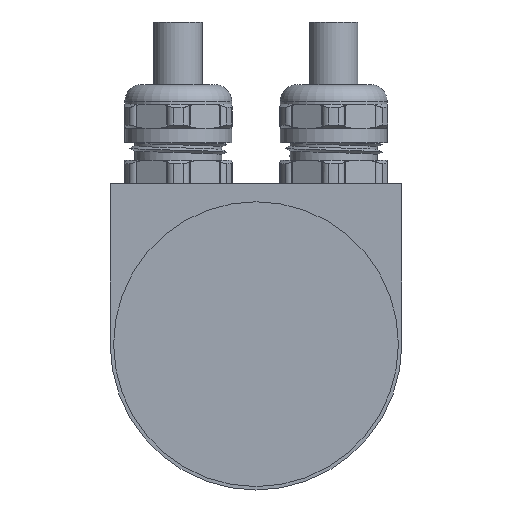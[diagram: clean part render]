
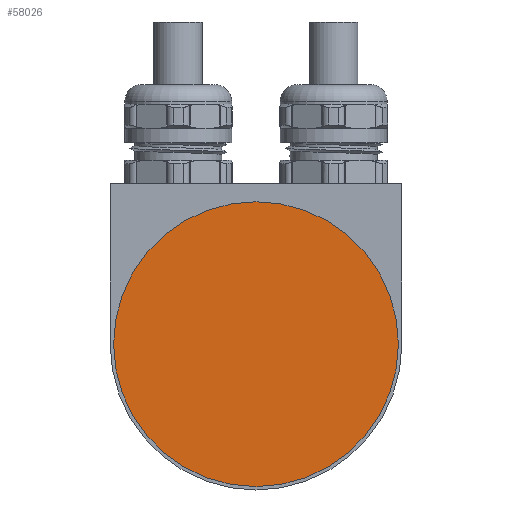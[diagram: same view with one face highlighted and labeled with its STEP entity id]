
A CAD part, front view. The second image highlights one B-rep face of the part: STEP entity #58026.
In plain terms, the highlighted planar face has unit normal (0, -1, 0).
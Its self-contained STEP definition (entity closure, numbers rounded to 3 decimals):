
#16234 = CARTESIAN_POINT ( 'NONE',  ( 0., 0., 29.3 ) ) ;
#16352 = CIRCLE ( 'NONE', #16389, 29.3 ) ;
#16387 = DIRECTION ( 'NONE',  ( 0., 0., 1. ) ) ;
#16388 = DIRECTION ( 'NONE',  ( 0., 1., 0. ) ) ;
#16389 = AXIS2_PLACEMENT_3D ( 'NONE', #16411, #16388, #16387 ) ;
#16411 = CARTESIAN_POINT ( 'NONE',  ( 0., 0., 0. ) ) ;
#16440 = CARTESIAN_POINT ( 'NONE',  ( 0., 0., -29.3 ) ) ;
#16538 = DIRECTION ( 'NONE',  ( 0., 0., 1. ) ) ;
#16539 = DIRECTION ( 'NONE',  ( 0., 1., 0. ) ) ;
#16540 = CARTESIAN_POINT ( 'NONE',  ( 0., 0., 0. ) ) ;
#16541 = AXIS2_PLACEMENT_3D ( 'NONE', #16540, #16539, #16538 ) ;
#16542 = PLANE ( 'NONE',  #16541 ) ;
#16543 = FACE_OUTER_BOUND ( 'NONE', #58010, .T. ) ;
#16591 = DIRECTION ( 'NONE',  ( 0., 0., 1. ) ) ;
#16592 = DIRECTION ( 'NONE',  ( 0., 1., 0. ) ) ;
#16593 = CARTESIAN_POINT ( 'NONE',  ( 0., 0., 0. ) ) ;
#16594 = AXIS2_PLACEMENT_3D ( 'NONE', #16593, #16592, #16591 ) ;
#16595 = CIRCLE ( 'NONE', #16594, 29.3 ) ;
#57948 = VERTEX_POINT ( 'NONE', #16234 ) ;
#57961 = EDGE_CURVE ( 'NONE', #57948, #57963, #16352, .T. ) ;
#57963 = VERTEX_POINT ( 'NONE', #16440 ) ;
#58010 = EDGE_LOOP ( 'NONE', ( #58036, #58025 ) ) ;
#58025 = ORIENTED_EDGE ( 'NONE', *, *, #57961, .F. ) ;
#58026 = ADVANCED_FACE ( 'NONE', ( #16543 ), #16542, .F. ) ;
#58034 = EDGE_CURVE ( 'NONE', #57963, #57948, #16595, .T. ) ;
#58036 = ORIENTED_EDGE ( 'NONE', *, *, #58034, .F. ) ;
